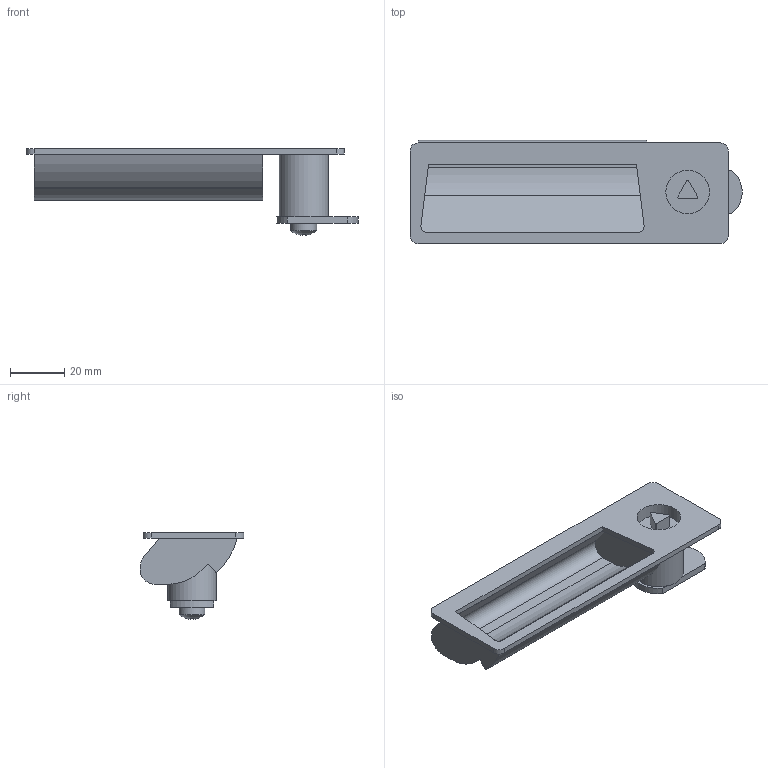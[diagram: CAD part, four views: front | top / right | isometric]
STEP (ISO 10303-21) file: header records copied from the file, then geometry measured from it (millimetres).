
FILE_DESCRIPTION( ( 'STEP AP203' ), '1' );
FILE_NAME( 'C:/Temp/Ganter_Step_05_03_2020/data/3_3/gn731_5/gn731_5_2/Latche with gripping tray GN 731.5-DK-0-20-2-SG (0-23).stp', '2020-03-12T11:49:27', ( 'License CC BY-ND 4.0' ), ( 'CADENAS' ), ' ', 'PARTsolutions', ' ' );
FILE_SCHEMA( ( 'CONFIG_CONTROL_DESIGN' ) );
Length unit declared in the file: millimetre
Products named in the file (3): Latche with gripping tray GN 731.5-DK-0-20-2-SG (0-23); _Latche with gripping tray GN 731.5-DK-0-20-2-SG (0)_1; _Latche with gripping tray GN 731.5-DK-0-20-2-SG (0-23)_2
Assembly tree (2 placements, depth 2):
  Latche with gripping tray GN 731.5-DK-0-20-2-SG (0-23)
    _Latche with gripping tray GN 731.5-DK-0-20-2-SG (0)_1
    _Latche with gripping tray GN 731.5-DK-0-20-2-SG (0-23)_2
Bounding box: 121.96 x 38 x 31.88 mm (x, y, z)
Volume: 23255.6 mm3; surface area: 19519.5 mm2
Topology: 2 solids, 2 shells, 87 faces, 221 edges, 144 vertices
Faces by surface type: plane 63, cylinder 23, sphere 1
Full cylindrical faces by diameter (mm): 9.5 x1, 16 x1, 18 x1
Entity records: 2687 total; most frequent: DIRECTION 461, CARTESIAN_POINT 445, ORIENTED_EDGE 428, EDGE_CURVE 214, AXIS2_PLACEMENT_3D 157, LINE 147, VECTOR 147, VERTEX_POINT 141
